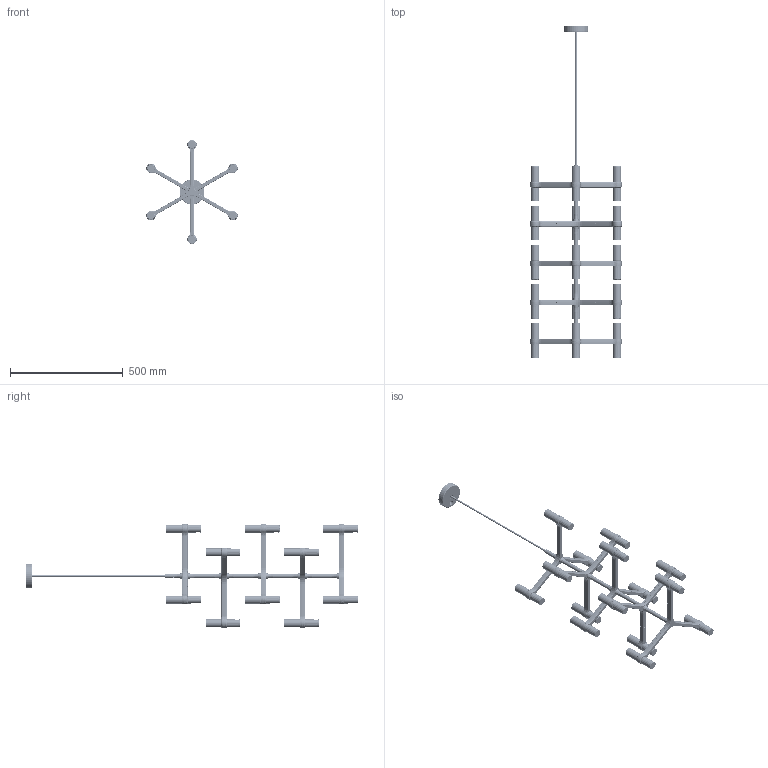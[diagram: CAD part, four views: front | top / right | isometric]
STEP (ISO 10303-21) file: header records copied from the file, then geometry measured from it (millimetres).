
FILE_DESCRIPTION (( 'STEP AP214' ), '1' );
FILE_NAME ('CROWN MULTI.STEP', '2014-04-16T09:21:42', ( 'winner' ), ( '' ), 'SwSTEP 2.0', 'SolidWorks 2012', '' );
FILE_SCHEMA (( 'AUTOMOTIVE_DESIGN' ));
Length unit declared in the file: millimetre
Products named in the file (18): 052COM700110; 051CRO700100; COLONNA_DIST; 051CRO700200; TERMINALE_ASM; 061CRO701200; 51G9-L18; 051CRO701200; 051CRO700600; 051CRO700800; 051CRO700500; CROCE-SUP-COLONNA_ASM; 051CRO700900_ASM; BARRA_CORTA_M12X1; COLONNA; 051CRO700400; red cable; CROWN MULTI
Assembly tree (41 placements, depth 4):
  CROWN MULTI
    red cable
    CROCE-SUP-COLONNA_ASM
      051CRO700400
      051CRO700900_ASM
        COLONNA
        BARRA_CORTA_M12X1
    TERMINALE_ASM  x15
      051CRO700500
      051CRO700800
      051CRO700600
      051CRO701200
      51G9-L18
      061CRO701200
    051CRO700200  x4
    COLONNA_DIST  x4
    051CRO700400  x4
    051CRO700100
    052COM700110
Bounding box: 405.73 x 1473.5 x 462 mm (x, y, z)
Volume: 665675.5 mm3; surface area: 1229699.6 mm2
Topology: 51 solids, 206 shells, 18046 faces, 48543 edges, 31500 vertices
Faces by surface type: plane 11212, cylinder 2755, bspline 2713, cone 1144, torus 222
Entity records: 94152 total; most frequent: CARTESIAN_POINT 32592, ORIENTED_EDGE 13220, DIRECTION 11692, EDGE_CURVE 6654, LINE 4698, VECTOR 4698, VERTEX_POINT 4342, AXIS2_PLACEMENT_3D 3497
